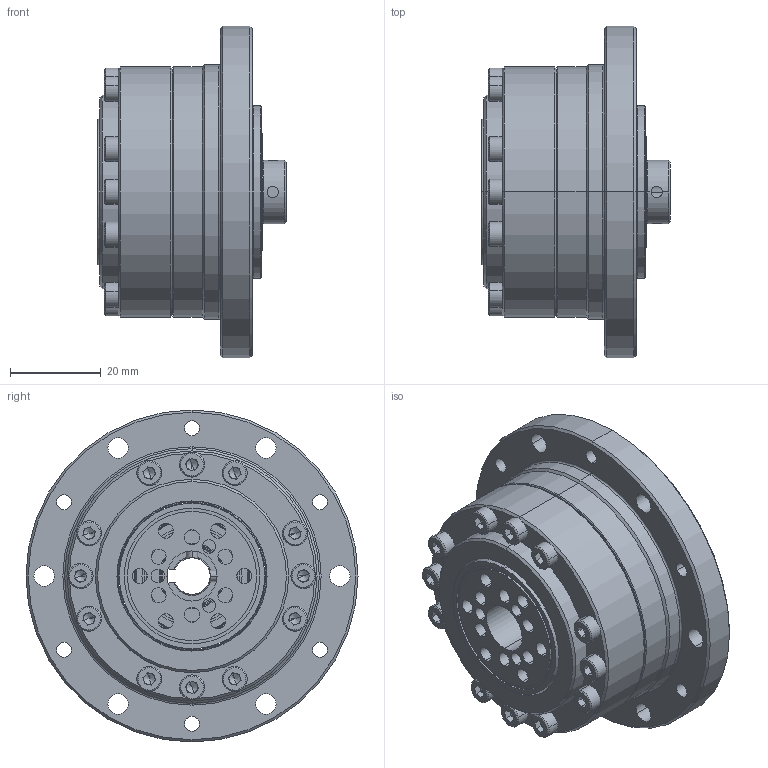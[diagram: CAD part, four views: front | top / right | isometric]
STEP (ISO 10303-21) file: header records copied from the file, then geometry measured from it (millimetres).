
FILE_DESCRIPTION (( 'STEP AP203' ), '1' );
FILE_NAME ('BCS-14-XXX-U-¢ò.STEP', '2019-01-15T03:09:23', ( 'User' ), ( 'China' ), 'SwSTEP 2.0', 'SolidWorks 2015', '' );
FILE_SCHEMA (( 'CONFIG_CONTROL_DESIGN' ));
Length unit declared in the file: millimetre
Products named in the file (1): BCS-14-XXX-U-ｊ
Bounding box: 41.5 x 73 x 73 mm (x, y, z)
Surface area: 32014.6 mm2 (no closed solid volume)
Topology: 0 solids, 51 shells, 669 faces, 1926 edges, 1228 vertices
Faces by surface type: plane 178, cylinder 176, torus 141, cone 132, sphere 40, bspline 2
Entity records: 21849 total; most frequent: CARTESIAN_POINT 4654, DIRECTION 3948, ORIENTED_EDGE 3130, EDGE_CURVE 1802, AXIS2_PLACEMENT_3D 1658, VERTEX_POINT 1168, CIRCLE 990, EDGE_LOOP 798
